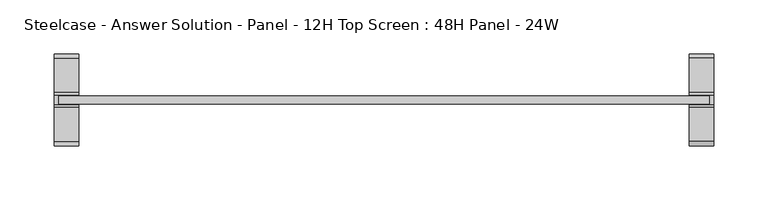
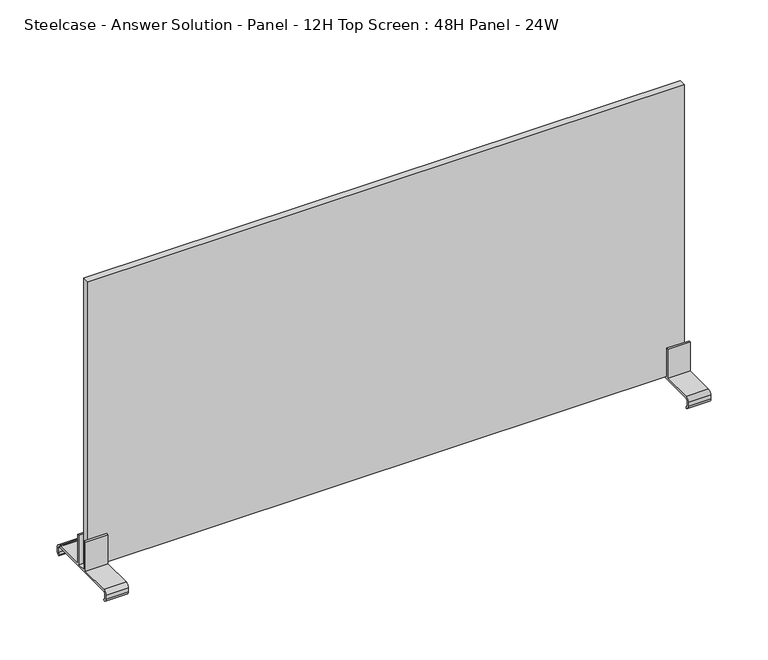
"""IFC4 building model written with IfcOpenShell, lengths in millimetres: furniture geometry, Steelcase - Answer Solution - Panel - 12H Top Screen : 48H Panel - 24W."""

from ifc_helpers import new_model, si_unit, point, frame, frame_2d, origin, place, context, project, spatial, polyline, circle_curve, trimmed, segment, composite_curve, outline, extrude, source, transform, mapped, element, save


def steelcase_answer_solution_panel_12h_top_screen_48h_panel_24w_3593cd85(model_context):
    return source(origin(), model_context, "Body", "SweptSolid", [
        extrude(outline(polyline([(300.736, -3.683001), (-300.736, -3.683001), (-300.736, 3.683001), (300.736, 3.683001), (300.736, -3.683001)])), frame((0.0, 0.0, 1227.5819981), z_axis=(0.0, 0.0, 1.0), x_axis=(1.0, 0.0, 0.0)), (0.0, 0.0, 1.0), 304.8),
        extrude(outline(composite_curve([segment(trimmed(circle_curve(frame_2d((38.5445, 1223.645)), 1.905), [point((40.4495, 1223.645))], [point((38.5445, 1225.55))], True, "CARTESIAN"), True, "CONTINUOUS"), segment(polyline([(38.5445, 1225.55), (-38.5445, 1225.55)]), True, "CONTINUOUS"), segment(trimmed(circle_curve(frame_2d((-38.5445, 1223.645)), 1.905), [point((-38.5445, 1225.55))], [point((-40.4495, 1223.645))], True, "CARTESIAN"), True, "CONTINUOUS"), segment(polyline([(-40.4495, 1223.645), (-40.4495, 1219.0341187)]), True, "CONTINUOUS"), segment(trimmed(circle_curve(frame_2d((-38.5445, 1219.0341187)), 1.905), [point((-40.4495, 1219.0341187))], [point((-38.6743328, 1217.1335481))], True, "CARTESIAN"), True, "CONTINUOUS"), segment(polyline([(-38.6743328, 1217.1335481), (-39.2392449, 1215.5535566)]), True, "CONTINUOUS"), segment(trimmed(circle_curve(frame_2d((-38.5459934, 1219.4284569)), 3.9364261), [point((-39.2392449, 1215.5535566))], [point((-42.4824195, 1219.4284569))], False, "CARTESIAN"), True, "CONTINUOUS"), segment(polyline([(-42.4824195, 1219.4284569), (-42.4824195, 1223.6452288)]), True, "CONTINUOUS"), segment(trimmed(circle_curve(frame_2d((-38.5459934, 1223.6452288)), 3.9364261), [point((-42.4824195, 1223.6452288))], [point((-38.5459934, 1227.5816549))], False, "CARTESIAN"), True, "CONTINUOUS"), segment(polyline([(-38.5459934, 1227.5816549), (-6.7310004, 1227.5816549), (-6.7310004, 1258.5699952), (-4.699, 1258.5699952), (-4.699, 1227.5819952), (4.699, 1227.5819952), (4.699, 1258.5700048), (6.7310004, 1258.5700048), (6.7310004, 1227.5816549), (38.5459934, 1227.5816549)]), True, "CONTINUOUS"), segment(trimmed(circle_curve(frame_2d((38.5459934, 1223.6452288)), 3.9364261), [point((38.5459934, 1227.5816549))], [point((42.4824195, 1223.6452288))], False, "CARTESIAN"), True, "CONTINUOUS"), segment(polyline([(42.4824195, 1223.6452288), (42.4824195, 1219.4284569)]), True, "CONTINUOUS"), segment(trimmed(circle_curve(frame_2d((38.5459934, 1219.4284569)), 3.9364261), [point((42.4824195, 1219.4284569))], [point((39.6631716, 1215.6538889))], False, "CARTESIAN"), True, "CONTINUOUS"), segment(polyline([(39.6631716, 1215.6538889), (39.1055128, 1217.2135996)]), True, "CONTINUOUS"), segment(trimmed(circle_curve(frame_2d((38.5445, 1219.0341187)), 1.905), [point((39.1055128, 1217.2135996))], [point((40.4495, 1219.0341187))], True, "CARTESIAN"), True, "CONTINUOUS"), segment(polyline([(40.4495, 1219.0341187), (40.4495, 1223.645)]), True, "CONTINUOUS")], self_intersect=False)), frame((282.194, 0.0, 0.0), z_axis=(1.0, 0.0, 0.0), x_axis=(0.0, 1.0, 0.0)), (0.0, 0.0, 1.0), 22.606),
        extrude(outline(composite_curve([segment(trimmed(circle_curve(frame_2d((38.5445, 1223.645)), 1.905), [point((40.4495, 1223.645))], [point((38.5445, 1225.55))], True, "CARTESIAN"), True, "CONTINUOUS"), segment(polyline([(38.5445, 1225.55), (-38.5445, 1225.55)]), True, "CONTINUOUS"), segment(trimmed(circle_curve(frame_2d((-38.5445, 1223.645)), 1.905), [point((-38.5445, 1225.55))], [point((-40.4495, 1223.645))], True, "CARTESIAN"), True, "CONTINUOUS"), segment(polyline([(-40.4495, 1223.645), (-40.4495, 1219.0341187)]), True, "CONTINUOUS"), segment(trimmed(circle_curve(frame_2d((-38.5445, 1219.0341187)), 1.905), [point((-40.4495, 1219.0341187))], [point((-38.6743328, 1217.1335481))], True, "CARTESIAN"), True, "CONTINUOUS"), segment(polyline([(-38.6743328, 1217.1335481), (-39.2392449, 1215.5535566)]), True, "CONTINUOUS"), segment(trimmed(circle_curve(frame_2d((-38.5459934, 1219.4284569)), 3.9364261), [point((-39.2392449, 1215.5535566))], [point((-42.4824195, 1219.4284569))], False, "CARTESIAN"), True, "CONTINUOUS"), segment(polyline([(-42.4824195, 1219.4284569), (-42.4824195, 1223.6452288)]), True, "CONTINUOUS"), segment(trimmed(circle_curve(frame_2d((-38.5459934, 1223.6452288)), 3.9364261), [point((-42.4824195, 1223.6452288))], [point((-38.5459934, 1227.5816549))], False, "CARTESIAN"), True, "CONTINUOUS"), segment(polyline([(-38.5459934, 1227.5816549), (-6.7310004, 1227.5816549), (-6.7310004, 1258.5699952), (-4.699, 1258.5699952), (-4.699, 1227.5819952), (4.699, 1227.5819952), (4.699, 1258.5700048), (6.7310004, 1258.5700048), (6.7310004, 1227.5816549), (38.5459934, 1227.5816549)]), True, "CONTINUOUS"), segment(trimmed(circle_curve(frame_2d((38.5459934, 1223.6452288)), 3.9364261), [point((38.5459934, 1227.5816549))], [point((42.4824195, 1223.6452288))], False, "CARTESIAN"), True, "CONTINUOUS"), segment(polyline([(42.4824195, 1223.6452288), (42.4824195, 1219.4284569)]), True, "CONTINUOUS"), segment(trimmed(circle_curve(frame_2d((38.5459934, 1219.4284569)), 3.9364261), [point((42.4824195, 1219.4284569))], [point((39.6631716, 1215.6538889))], False, "CARTESIAN"), True, "CONTINUOUS"), segment(polyline([(39.6631716, 1215.6538889), (39.1055128, 1217.2135996)]), True, "CONTINUOUS"), segment(trimmed(circle_curve(frame_2d((38.5445, 1219.0341187)), 1.905), [point((39.1055128, 1217.2135996))], [point((40.4495, 1219.0341187))], True, "CARTESIAN"), True, "CONTINUOUS"), segment(polyline([(40.4495, 1219.0341187), (40.4495, 1223.645)]), True, "CONTINUOUS")], self_intersect=False)), frame((-304.8, 0.0, 0.0), z_axis=(1.0, 0.0, 0.0), x_axis=(0.0, 1.0, 0.0)), (0.0, 0.0, 1.0), 22.606),
    ])


if __name__ == "__main__":
    model = new_model("IFC4")
    model_context = context("Model", 3, world=origin())
    ifc_project = project(units=[si_unit("LENGTHUNIT", "METRE", prefix="MILLI")], contexts=[model_context])
    site = spatial("IfcSite", under=ifc_project)
    building = spatial("IfcBuilding", under=site)
    placement = place(None, origin())
    steelcase_answer_solution_panel_12h_top_screen_48h_panel_24w_shape = steelcase_answer_solution_panel_12h_top_screen_48h_panel_24w_3593cd85(model_context)
    element("IfcFurniture", 1, ObjectType="Steelcase - Answer Solution - Panel - 12H Top Screen : 48H Panel - 24W", at=placement, inside=building, context=model_context, shape_type="MappedRepresentation", body=[
        mapped(steelcase_answer_solution_panel_12h_top_screen_48h_panel_24w_shape, transform((0.0, 0.0, 0.0), x_axis=(1.0, 0.0, 0.0), y_axis=(0.0, 1.0, 0.0), z_axis=(0.0, 0.0, 1.0))),
    ])
    save(model, "model.ifc")
